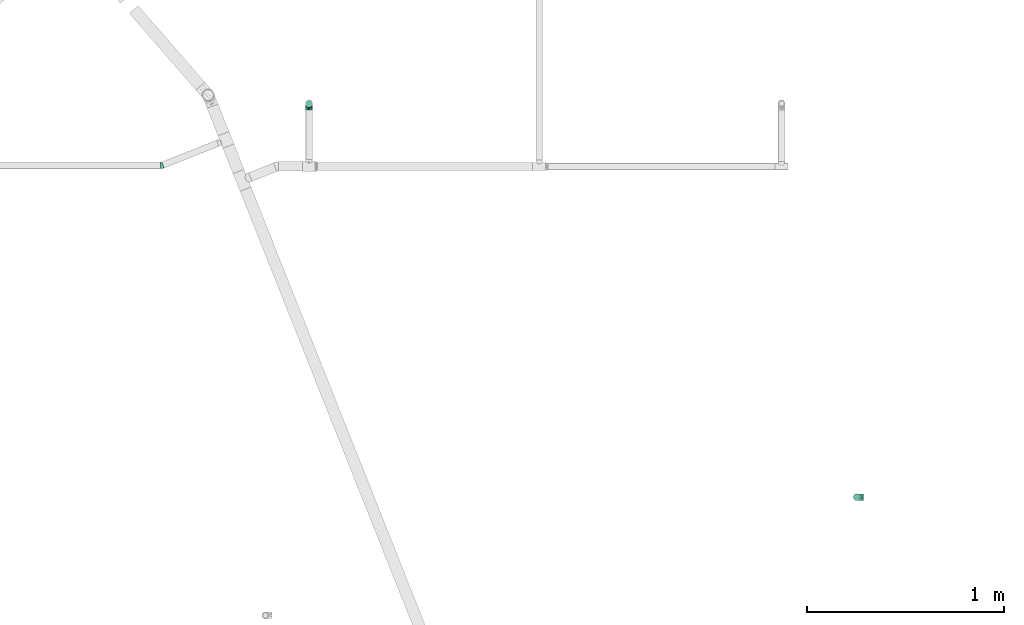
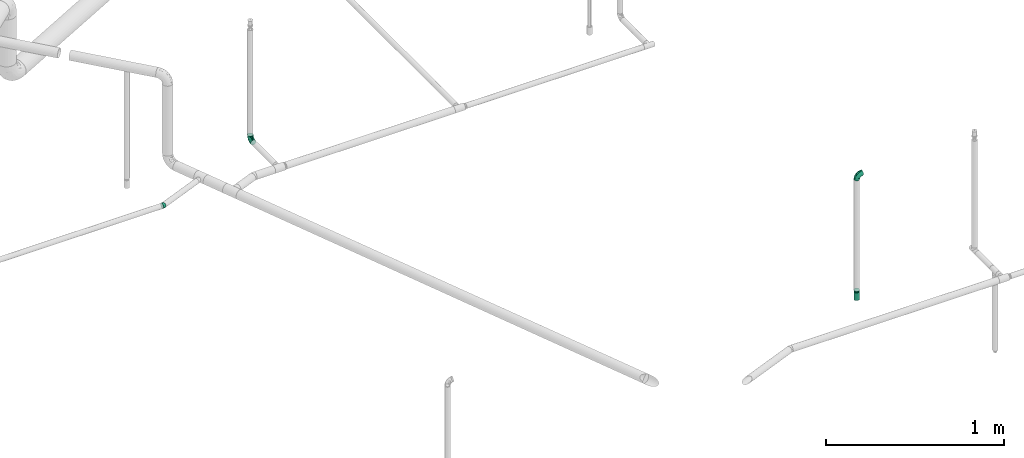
# One storey, part 42 of 94: 4 flow fittings, 1 flow terminal.
"""IFC2X3 building model written with IfcOpenShell, lengths in millimetres."""

from ifc_helpers import new_model, entity, si_unit, converted_unit, derived_unit, direction, frame, origin_with_axes, place, context, subcontext, project, spatial, open_shell, surface_model, source, transform, mapped, type_object, element, save


model = new_model("IFC2X3")

# Units and contexts
model_context = context("Model", 3, precision=0.01, world=frame((0.0, 4.29681676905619e-09, 0.0)), true_north=direction((4.01073788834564e-13, 1.0)))
plan_context = context("Plan", 3, precision=0.01, world=frame((0.0, 4.29681676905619e-09, 0.0)), true_north=direction((4.01073788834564e-13, 1.0)))
body_context = subcontext(model_context, "Body", "Model", "MODEL_VIEW")
ifc_project = project(units=[converted_unit("PLANEANGLEUNIT", "DEGREE", entity("IfcPositiveLengthMeasure", 0.0174532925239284), si_unit("PLANEANGLEUNIT", "RADIAN"), dimensions=[0, 0, 0, 0, 0, 0, 0]), si_unit("AREAUNIT", "SQUARE_METRE"), si_unit("LENGTHUNIT", "METRE", prefix="MILLI"), si_unit("MASSUNIT", "GRAM", prefix="KILO"), si_unit("POWERUNIT", "WATT"), si_unit("PRESSUREUNIT", "PASCAL", prefix="KILO"), si_unit("FORCEUNIT", "NEWTON", prefix="KILO"), si_unit("ELECTRICVOLTAGEUNIT", "VOLT"), si_unit("ELECTRICCURRENTUNIT", "AMPERE"), si_unit("THERMODYNAMICTEMPERATUREUNIT", "DEGREE_CELSIUS"), si_unit("TIMEUNIT", "SECOND"), si_unit("VOLUMEUNIT", "CUBIC_METRE"), derived_unit("LINEARVELOCITYUNIT", [(si_unit("LENGTHUNIT", "METRE"), 1), (si_unit("TIMEUNIT", "SECOND"), -1)]), derived_unit("VOLUMETRICFLOWRATEUNIT", [(si_unit("VOLUMEUNIT", "CUBIC_METRE"), 1), (si_unit("TIMEUNIT", "SECOND"), -1)]), derived_unit("THERMALTRANSMITTANCEUNIT", [(si_unit("POWERUNIT", "WATT"), 1), (si_unit("THERMODYNAMICTEMPERATUREUNIT", "KELVIN"), -1), (si_unit("AREAUNIT", "SQUARE_METRE"), -1)]), derived_unit("SOUNDPRESSUREUNIT", [(si_unit("PRESSUREUNIT", "PASCAL"), 1)])], contexts=[model_context, plan_context])

# Site, building, storey
site_placement = place(None, frame((0.0, -4.29681676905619e-09, 0.0), z_axis=(0.0, 0.0, 1.0), x_axis=(1.0, 0.0, 0.0)))
site = spatial("IfcSite", under=ifc_project, at=site_placement, CompositionType="ELEMENT")
building_placement = place(site_placement, frame((0.0, 4.29681676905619e-09, 0.0), z_axis=(0.0, 0.0, 1.0), x_axis=(1.0, 0.0, 0.0)))
building = spatial("IfcBuilding", under=site, at=building_placement, Name="mc-building", CompositionType="ELEMENT")
storey_placement = place(building_placement, frame((0.0, 0.0, 210900.0), z_axis=(0.0, 0.0, 1.0), x_axis=(1.0, 0.0, 0.0)))
storey = spatial("IfcBuildingStorey", under=building, at=storey_placement, Name="Nivå F", CompositionType="ELEMENT", Elevation=210900.0)

# Flow fittings
pipe_fitting_type_1 = type_object("IfcPipeFittingType", Name="magi_pipe_fe_elbow_short_001", PredefinedType="BEND")
shared_shape_1 = source(origin_with_axes(), body_context, "Body", "SurfaceModel", [
    surface_model("IfcShellBasedSurfaceModel", [(-33.8, 8.45, -14.63583), (-33.8, 4.37404, -16.32415), (-33.8, 11.9501, -11.9501), (-33.8, -11.9501, -11.9501), (-33.8, -14.63583, -8.45), (-33.8, -8.45, -14.63583), (-33.8, 0.0, -16.9), (-33.8, -4.37404, -16.32415), (-33.8, -4.37404, 16.32415), (-33.8, 0.0, 16.9), (-33.8, -8.45, 14.63583), (-33.8, 16.32415, -4.37404), (-33.8, 14.63583, -8.45), (-33.8, -16.32415, -4.37404), (-33.8, -16.9, 0.0), (-33.8, -16.32415, 4.37404), (-33.8, 11.9501, 11.9501), (-33.8, 14.63583, 8.45), (-33.8, 16.32415, 4.37404), (-33.8, 4.37404, 16.32415), (-33.8, 8.45, 14.63583), (-33.8, -14.63583, 8.45), (-33.8, -11.9501, 11.9501), (-33.8, 16.9, 0.0), (-11.9501, 33.8, -11.9501), (0.0, 33.8, -16.9), (-4.37404, 33.8, -16.32415), (-8.45, 33.8, -14.63583), (-14.63583, 33.8, -8.45), (-16.32415, 33.8, -4.37404), (14.63583, 33.8, -8.45), (8.45, 33.8, 14.63583), (16.32415, 33.8, -4.37404), (8.45, 33.8, -14.63583), (11.9501, 33.8, -11.9501), (4.37404, 33.8, -16.32415), (16.32415, 33.8, 4.37404), (16.9, 33.8, 0.0), (-11.9501, 33.8, 11.9501), (-16.32415, 33.8, 4.37404), (-14.63583, 33.8, 8.45), (-8.45, 33.8, 14.63583), (-4.37404, 33.8, 16.32415), (11.9501, 33.8, 11.9501), (14.63583, 33.8, 8.45), (0.0, 33.8, 16.9), (4.37404, 33.8, 16.32415), (-16.9, 33.8, 0.0), (-24.79389, -13.12945, 9.48721), (-22.19287, -9.75018, 12.59315), (-24.09897, -14.97035, 0.0), (-14.93934, -10.76256, 8.5297), (-22.46095, -14.75051, 5.27077), (14.75051, 22.46094, 5.27077), (11.9251, 13.23888, 4.33236), (13.04069, 14.39795, 0.0), (7.71387, 13.68847, 11.55891), (9.75018, 22.19287, 12.59315), (4.10169, 13.0571, 14.04018), (-24.84007, -6.39063, 15.2048), (-25.81779, -2.23879, 16.61097), (-23.66549, 2.59054, 16.87119), (-26.50418, 14.06512, 11.08152), (-24.21253, 17.66365, 7.72657), (-29.58514, 15.86957, 7.00283), (-6.17382, -7.5455, 0.0), (-13.23888, -11.9251, 4.33236), (-14.39795, -13.04069, 0.0), (-17.81434, 18.87373, 11.97104), (-6.30846, 29.15138, 15.82987), (-2.31622, 25.28002, 16.85849), (-29.23923, 10.23435, 13.77053), (-1.45439, -2.85688, 7.61475), (-0.28326, 0.34872, 10.09509), (-5.74484, -4.04709, 10.4122), (-4.41137, 11.31918, 16.59407), (-8.39727, 3.10034, 15.7812), (-1.72649, 9.1306, 15.53089), (-17.39909, 24.75344, 7.64977), (-26.19233, 20.0512, 0.0), (-28.14518, 17.29657, 4.25857), (-26.05147, 6.6281, 15.96447), (-5.87354, 16.61944, 16.86968), (-12.51807, 12.51807, 16.48937), (-10.06312, 7.38516, 16.81295), (-3.01882, 3.01882, 13.81718), (-13.0571, -4.10169, 14.04018), (-16.82553, -0.15166, 16.38038), (10.76256, 14.93934, 8.5297), (13.12945, 24.79389, 9.48721), (6.39063, 24.84007, 15.2048), (2.23879, 25.81779, 16.61097), (-13.68847, -7.71387, 11.55891), (14.97035, 24.09897, 0.0), (-7.30894, 22.89991, 16.09489), (-10.67958, 26.17414, 14.008), (-12.78295, 18.26924, 15.06066), (-13.88562, 22.45231, 12.93244), (-18.04944, 15.16501, 14.04434), (-23.11658, 20.08178, 4.02986), (-21.84989, 21.84989, 0.0), (-18.55817, 25.48277, 3.93065), (-13.95142, 26.94732, 11.03289), (-18.57098, 7.23906, 16.59756), (-16.58335, 4.14122, 16.89279), (-17.96666, 11.46709, 15.63151), (-9.84453, 17.54304, 16.18938), (0.15166, 16.82553, 16.38038), (-23.27207, 11.47201, 14.23154), (3.84842, 5.86994, 10.70473), (-8.0212, -7.54413, 7.93275), (1.00345, -2.19508, 4.57414), (5.13203, 3.01004, 5.90201), (5.24161, 1.7543, 2.53265), (8.70457, 7.04947, 3.99182), (-20.0512, 26.19233, 0.0), (8.4852, 8.76699, 7.09296), (-4.55488, -6.72064, 4.90681), (2.05031, -2.05031, 0.0), (7.5455, 6.17382, 0.0), (-26.75399, 2.1369, -16.845), (-14.61995, 24.73803, -11.27736), (-28.45274, -13.45335, -9.81895), (-26.00469, 6.63555, -15.96645), (-23.06726, 20.04573, -4.26202), (-13.80647, -4.26506, -14.17873), (-14.67501, -0.21081, -16.07388), (-6.7902, -0.2828, -13.8478), (-24.53586, 11.08096, -14.13417), (-26.72048, 14.00837, -11.05776), (10.0967, 24.44989, -12.75976), (5.83237, 21.40218, -15.03047), (6.66249, 28.54238, -15.38093), (-20.38182, 15.48705, -12.74596), (12.53268, 21.23441, -9.15363), (12.54494, 15.67504, -5.54878), (9.7522, 12.89279, -8.66343), (-15.65186, 19.64213, -13.01327), (-12.03528, 20.66498, -14.67665), (-15.61907, 15.61906, -14.83879), (-25.56551, -15.26206, 0.0), (-24.65452, -15.12934, -5.50955), (13.45335, 28.45274, -9.81895), (15.12934, 24.65452, -5.50955), (-7.35442, -8.31014, -5.65563), (-15.67504, -12.54494, -5.54878), (-24.44989, -10.0967, -12.75976), (0.16522, 0.41303, -9.71728), (-5.70658, -5.33066, -8.89288), (-5.13869, -2.37198, -11.53565), (-21.23441, -12.53268, -9.15363), (0.71146, 7.93863, -14.09382), (0.21081, 14.67501, -16.07388), (3.49291, 14.42772, -14.76381), (-24.89911, -2.13088, -16.591), (-28.54238, -6.66249, -15.38093), (-18.44386, -7.71663, -13.26957), (2.13088, 24.89911, -16.591), (-28.64342, 17.44413, -2.89318), (1.70017, -1.28722, -5.09504), (-16.57067, 26.81947, -7.36596), (-17.69055, 27.4263, -3.76405), (-12.89279, -9.7522, -8.66343), (-5.96611, 5.96611, -15.95814), (-20.53709, 20.09345, -8.28985), (-2.1369, 26.75399, -16.845), (-6.89872, 24.58781, -16.02578), (-10.60739, 26.53157, -13.98044), (-21.40218, -5.83237, -15.03047), (2.93192, 5.89627, -11.55917), (6.89393, 12.61842, -11.82233), (5.58056, 5.95325, -8.79455), (-3.99512, 18.61798, -16.89635), (8.31014, 7.35442, -5.65563), (-9.1383, 9.86148, -16.89041), (-9.99983, 16.02119, -16.39699), (-16.68576, 9.78031, -16.34199), (-27.01915, 16.61158, -7.12979), (15.26206, 25.56551, 0.0), (-18.61798, 3.99512, -16.89635), (-19.37495, 27.82495, 0.0), (-12.61842, -6.89393, -11.82233), (-18.84705, 19.14018, -10.96545)], [open_shell([[[0, 1, 2]], [[3, 4, 5]], [[6, 7, 5]], [[8, 9, 10]], [[1, 6, 2]], [[11, 12, 2]], [[4, 2, 6]], [[2, 13, 10]], [[5, 4, 6]], [[2, 4, 13]], [[14, 15, 13]], [[11, 2, 16]], [[11, 17, 18]], [[11, 16, 17]], [[19, 20, 16]], [[16, 2, 10]], [[19, 16, 10]], [[21, 22, 15]], [[22, 13, 15]], [[22, 10, 13]], [[10, 9, 19]], [[11, 18, 23]], [[24, 25, 26]], [[24, 26, 27]], [[24, 28, 29]], [[25, 24, 30]], [[31, 32, 24]], [[33, 30, 34]], [[33, 35, 25]], [[25, 30, 33]], [[32, 30, 24]], [[32, 36, 37]], [[38, 24, 29]], [[39, 40, 29]], [[40, 38, 29]], [[38, 41, 42]], [[38, 31, 24]], [[31, 38, 42]], [[36, 43, 44]], [[36, 32, 43]], [[31, 45, 46]], [[32, 31, 43]], [[42, 45, 31]], [[39, 29, 47]], [[22, 48, 49]], [[15, 14, 50]], [[51, 48, 52]], [[53, 54, 55]], [[48, 22, 21]], [[15, 52, 21]], [[56, 57, 58]], [[49, 10, 22]], [[49, 59, 10]], [[9, 60, 61]], [[62, 63, 64]], [[65, 66, 67]], [[57, 43, 31]], [[62, 68, 63]], [[42, 69, 70]], [[20, 71, 16]], [[8, 60, 9]], [[72, 73, 74]], [[75, 76, 77]], [[16, 62, 17]], [[40, 39, 78]], [[79, 23, 80]], [[64, 18, 17]], [[9, 61, 19]], [[19, 81, 20]], [[82, 83, 84]], [[74, 85, 86]], [[59, 86, 87]], [[88, 89, 57]], [[90, 31, 46]], [[44, 53, 36]], [[46, 45, 91]], [[54, 53, 88]], [[44, 89, 53]], [[92, 86, 49]], [[89, 44, 43]], [[10, 59, 8]], [[53, 55, 93]], [[93, 36, 53]], [[66, 52, 67]], [[94, 82, 70]], [[95, 96, 94]], [[97, 98, 96]], [[79, 99, 100]], [[41, 38, 95]], [[101, 100, 99]], [[68, 78, 63]], [[42, 41, 69]], [[23, 18, 80]], [[95, 94, 69]], [[78, 101, 99]], [[38, 102, 95]], [[70, 45, 42]], [[97, 95, 102]], [[15, 50, 52]], [[90, 57, 31]], [[57, 90, 58]], [[81, 19, 61]], [[103, 104, 84]], [[105, 81, 103]], [[38, 40, 102]], [[106, 96, 83]], [[94, 106, 82]], [[91, 70, 107]], [[71, 62, 16]], [[62, 108, 98]], [[86, 59, 49]], [[67, 52, 50]], [[60, 59, 87]], [[92, 49, 51]], [[86, 85, 76]], [[91, 90, 46]], [[37, 36, 93]], [[107, 77, 58]], [[107, 58, 90]], [[58, 85, 109]], [[110, 74, 92]], [[72, 74, 110]], [[66, 51, 52]], [[72, 111, 112]], [[113, 114, 112]], [[56, 88, 57]], [[52, 48, 21]], [[49, 48, 51]], [[57, 89, 43]], [[53, 89, 88]], [[103, 81, 61]], [[71, 81, 108]], [[18, 64, 80]], [[63, 78, 99]], [[47, 115, 101]], [[101, 115, 100]], [[40, 78, 102]], [[68, 102, 78]], [[97, 96, 95]], [[105, 98, 108]], [[103, 84, 83]], [[107, 70, 82]], [[76, 84, 87]], [[82, 84, 75]], [[70, 91, 45]], [[90, 91, 107]], [[59, 60, 8]], [[61, 60, 87]], [[73, 85, 74]], [[109, 112, 116]], [[103, 61, 104]], [[105, 103, 83]], [[96, 105, 83]], [[81, 105, 108]], [[96, 98, 105]], [[62, 98, 68]], [[61, 87, 104]], [[87, 84, 104]], [[86, 76, 87]], [[77, 76, 85]], [[58, 77, 85]], [[75, 77, 107]], [[82, 75, 107]], [[76, 75, 84]], [[81, 71, 20]], [[62, 71, 108]], [[95, 69, 41]], [[70, 69, 94]], [[62, 64, 17]], [[80, 63, 99]], [[63, 80, 64]], [[80, 99, 79]], [[66, 65, 117]], [[110, 66, 117]], [[112, 114, 116]], [[118, 117, 65]], [[110, 92, 51]], [[112, 111, 113]], [[119, 55, 54]], [[74, 86, 92]], [[58, 109, 56]], [[116, 56, 109]], [[66, 110, 51]], [[72, 110, 117]], [[111, 72, 117]], [[73, 112, 109]], [[117, 118, 111]], [[113, 111, 118]], [[118, 119, 113]], [[114, 119, 54]], [[119, 114, 113]], [[116, 54, 88]], [[54, 116, 114]], [[116, 88, 56]], [[112, 73, 72]], [[85, 73, 109]], [[78, 39, 101]], [[47, 101, 39]], [[102, 68, 97]], [[97, 68, 98]], [[82, 106, 83]], [[94, 96, 106]], [[1, 120, 6]], [[28, 24, 121]], [[3, 122, 4]], [[0, 123, 1]], [[100, 124, 79]], [[125, 126, 127]], [[128, 2, 129]], [[130, 131, 132]], [[128, 129, 133]], [[134, 135, 136]], [[137, 138, 139]], [[128, 0, 2]], [[67, 140, 141]], [[134, 142, 143]], [[141, 13, 4]], [[144, 65, 145]], [[146, 3, 5]], [[147, 148, 149]], [[145, 141, 150]], [[151, 152, 153]], [[154, 7, 6]], [[5, 155, 146]], [[150, 146, 156]], [[155, 5, 7]], [[143, 135, 134]], [[35, 157, 25]], [[23, 79, 158]], [[148, 159, 144]], [[160, 161, 29]], [[145, 162, 144]], [[163, 152, 151]], [[29, 28, 160]], [[121, 164, 160]], [[33, 34, 130]], [[25, 165, 26]], [[26, 165, 166]], [[142, 34, 30]], [[24, 27, 167]], [[124, 161, 164]], [[157, 35, 132]], [[155, 154, 168]], [[123, 0, 128]], [[169, 170, 171]], [[172, 157, 152]], [[26, 166, 27]], [[132, 35, 33]], [[142, 130, 34]], [[168, 154, 126]], [[136, 135, 173]], [[133, 137, 139]], [[2, 12, 129]], [[170, 131, 130]], [[30, 32, 143]], [[172, 174, 175]], [[176, 123, 128]], [[158, 177, 11]], [[135, 55, 119]], [[167, 27, 166]], [[175, 166, 172]], [[137, 167, 138]], [[122, 141, 4]], [[140, 14, 13]], [[32, 37, 178]], [[170, 130, 134]], [[152, 157, 131]], [[165, 157, 172]], [[153, 170, 151]], [[152, 163, 174]], [[168, 125, 156]], [[122, 146, 150]], [[120, 154, 6]], [[179, 174, 126]], [[179, 126, 154]], [[126, 163, 127]], [[162, 145, 150]], [[140, 13, 141]], [[32, 178, 143]], [[55, 143, 178]], [[177, 129, 12]], [[128, 133, 139]], [[176, 128, 139]], [[120, 123, 179]], [[121, 160, 28]], [[161, 100, 180]], [[166, 175, 138]], [[121, 24, 167]], [[161, 47, 29]], [[79, 124, 158]], [[124, 164, 177]], [[161, 124, 100]], [[136, 171, 170]], [[127, 163, 151]], [[147, 171, 159]], [[148, 144, 162]], [[127, 151, 169]], [[127, 181, 125]], [[129, 177, 164]], [[12, 11, 177]], [[159, 65, 144]], [[67, 141, 145]], [[143, 55, 135]], [[135, 119, 173]], [[123, 120, 1]], [[154, 120, 179]], [[157, 165, 25]], [[166, 165, 172]], [[172, 152, 174]], [[176, 139, 175]], [[126, 174, 163]], [[176, 174, 179]], [[174, 176, 175]], [[123, 176, 179]], [[150, 181, 162]], [[127, 149, 181]], [[181, 148, 162]], [[159, 148, 147]], [[171, 136, 173]], [[170, 134, 136]], [[159, 171, 173]], [[171, 147, 169]], [[169, 147, 149]], [[151, 170, 169]], [[164, 182, 129]], [[182, 121, 137]], [[181, 149, 148]], [[169, 149, 127]], [[182, 137, 133]], [[167, 137, 121]], [[166, 138, 167]], [[175, 139, 138]], [[129, 182, 133]], [[121, 182, 164]], [[161, 160, 164]], [[47, 161, 180]], [[177, 158, 124]], [[23, 158, 11]], [[130, 132, 33]], [[157, 132, 131]], [[143, 142, 30]], [[130, 142, 134]], [[154, 155, 7]], [[146, 155, 168]], [[146, 122, 3]], [[141, 122, 150]], [[152, 131, 153]], [[159, 119, 118]], [[67, 145, 65]], [[170, 153, 131]], [[119, 159, 173]], [[159, 118, 65]], [[156, 125, 181]], [[126, 125, 168]], [[150, 156, 181]], [[168, 156, 146]]])]),
])
for number, where, z_axis, x_axis, name in (
    (1, (719221.4788, 441198.08755, 3600.0), (1.0, 0.0, 0.0), (0.0, 1.0, 0.0), "magi_pipe_fe_elbow_short_001"),
    (2, (722000.0, 439200.7, 3600.0), (0.0, 1.0, 0.0), (0.0, 0.0, 1.0), "magi_pipe_fe_elbow_short_001"),
):
    element("IfcFlowFitting", number, at=place(storey_placement, frame(where, z_axis=z_axis, x_axis=x_axis)), inside=storey, type_object=pipe_fitting_type_1, Name=name, context=body_context, shape_type="MappedRepresentation", body=[
        mapped(shared_shape_1, transform((0.0, 0.0, 0.0), scale=1.0)),
    ])
shared_shape_2 = source(origin_with_axes(), body_context, "Body", "SurfaceModel", [
    surface_model("IfcShellBasedSurfaceModel", [(-6.47272, 4.37404, -16.32415), (-6.47272, 0.0, -16.9), (-6.47272, 11.9501, -11.9501), (-6.47272, 8.45, -14.63583), (-6.47272, 16.32415, -4.37404), (-6.47272, 14.63583, -8.45), (-6.47272, -14.63583, -8.45), (-6.47272, -16.32415, -4.37404), (-6.47272, -8.45, 14.63583), (-6.47272, -11.9501, -11.9501), (-6.47272, -8.45, -14.63583), (-6.47272, -4.37404, -16.32415), (-6.47272, -16.9, 0.0), (-6.47272, -16.32415, 4.37404), (-6.47272, 11.9501, 11.9501), (-6.47272, 16.32415, 4.37404), (-6.47272, 14.63583, 8.45), (-6.47272, 4.37404, 16.32415), (-6.47272, 8.45, 14.63583), (-6.47272, -14.63583, 8.45), (-6.47272, -11.9501, 11.9501), (-6.47272, -4.37404, 16.32415), (-6.47272, 0.0, 16.9), (-6.47272, 16.9, 0.0), (4.39877, 6.45594, -16.32415), (12.04577, -12.77785, -4.37404), (6.01477, 2.39136, -16.9), (1.59978, 13.49599, -11.9501), (2.8929, 10.24352, -14.63583), (0.60753, 15.9917, -8.45), (-0.01622, 17.56057, -4.37404), (1.59978, 13.49599, 11.9501), (9.13664, -5.4608, -14.63583), (11.42201, -11.20898, -8.45), (10.42977, -8.71327, -11.9501), (7.63077, -1.67322, -16.32415), (12.04577, -12.77785, 4.37404), (12.25852, -13.31296, 0.0), (-0.22897, 18.09568, 0.0), (-0.01622, 17.56057, 4.37404), (0.60753, 15.9917, 8.45), (2.8929, 10.24352, 14.63583), (4.39877, 6.45594, 16.32415), (9.13664, -5.4608, 14.63583), (6.01477, 2.39136, 16.9), (10.42977, -8.71327, 11.9501), (11.42201, -11.20898, 8.45), (7.63077, -1.67322, 16.32415), (1.85403, -9.6816, 13.26474), (1.79785, -12.81896, 10.10403), (2.83982, -14.82933, 6.22192), (1.13843, -5.94477, 15.52937), (0.33675, -1.75849, 16.72805), (-0.49597, 2.58991, 16.77851), (-3.29412, 17.20161, 0.0), (0.32149, -16.14055, 3.16707), (3.06308, -15.99517, 0.0), (0.33675, -1.75849, -16.72805), (1.13843, -5.94477, -15.52937), (3.06534, -12.57623, -10.10403), (2.83982, -14.82933, -6.22192), (-0.49597, 2.58991, -16.77851), (1.85403, -9.6816, -13.26474), (5.66442, -15.11737, -3.16707)], [open_shell([[[0, 1, 2]], [[3, 0, 2]], [[4, 5, 2]], [[6, 2, 1]], [[2, 7, 8]], [[9, 6, 10]], [[1, 11, 10]], [[1, 10, 6]], [[6, 7, 2]], [[12, 13, 7]], [[4, 2, 14]], [[14, 15, 4]], [[16, 15, 14]], [[17, 18, 14]], [[2, 8, 14]], [[17, 14, 8]], [[19, 20, 13]], [[13, 20, 7]], [[21, 22, 8]], [[20, 8, 7]], [[8, 22, 17]], [[23, 4, 15]], [[24, 25, 26]], [[27, 24, 28]], [[27, 29, 30]], [[25, 24, 27]], [[31, 25, 27]], [[32, 33, 34]], [[32, 35, 26]], [[32, 25, 33]], [[26, 25, 32]], [[25, 36, 37]], [[38, 27, 30]], [[38, 39, 40]], [[38, 40, 31]], [[31, 41, 42]], [[43, 25, 31]], [[44, 31, 42]], [[36, 45, 46]], [[36, 25, 45]], [[43, 44, 47]], [[25, 43, 45]], [[31, 44, 43]], [[31, 27, 38]], [[48, 20, 49]], [[8, 20, 48]], [[20, 19, 49]], [[36, 46, 50]], [[19, 50, 49]], [[21, 8, 51]], [[48, 51, 8]], [[22, 21, 52]], [[22, 53, 17]], [[46, 49, 50]], [[50, 19, 13]], [[45, 43, 48]], [[16, 14, 40]], [[18, 31, 14]], [[47, 44, 52]], [[51, 52, 21]], [[44, 42, 53]], [[54, 15, 39]], [[55, 50, 13]], [[54, 23, 15]], [[39, 15, 16]], [[12, 55, 13]], [[41, 18, 17]], [[52, 53, 22]], [[12, 56, 55]], [[43, 47, 51]], [[52, 51, 47]], [[43, 51, 48]], [[53, 52, 44]], [[45, 48, 49]], [[45, 49, 46]], [[56, 37, 36]], [[40, 39, 16]], [[38, 54, 39]], [[41, 17, 42]], [[18, 41, 31]], [[40, 14, 31]], [[17, 53, 42]], [[36, 50, 55]], [[36, 55, 56]], [[1, 57, 11]], [[58, 57, 35]], [[6, 59, 60]], [[1, 0, 61]], [[27, 2, 5]], [[62, 58, 32]], [[2, 27, 3]], [[63, 60, 25]], [[4, 30, 5]], [[34, 33, 59]], [[57, 61, 26]], [[3, 24, 0]], [[56, 12, 7]], [[7, 60, 63]], [[62, 9, 10]], [[7, 63, 56]], [[7, 6, 60]], [[6, 9, 59]], [[58, 10, 11]], [[4, 23, 54]], [[54, 38, 30]], [[58, 11, 57]], [[30, 29, 5]], [[27, 5, 29]], [[9, 62, 59]], [[3, 28, 24]], [[62, 10, 58]], [[33, 60, 59]], [[3, 27, 28]], [[57, 1, 61]], [[26, 61, 24]], [[58, 35, 32]], [[24, 61, 0]], [[37, 63, 25]], [[62, 32, 34]], [[33, 25, 60]], [[37, 56, 63]], [[34, 59, 62]], [[35, 57, 26]], [[4, 54, 30]]])]),
])
flow_fitting_1_placement = place(storey_placement, frame((718474.70896, 440883.45685, 3600.0), z_axis=(0.0, 0.0, 1.0), x_axis=(1.0, 0.0, 0.0)))
element("IfcFlowFitting", 3, at=flow_fitting_1_placement, inside=storey, type_object=pipe_fitting_type_1, Name="magi_pipe_fe_elbow_short_001", context=body_context, shape_type="MappedRepresentation", body=[
    mapped(shared_shape_2, transform((0.0, 0.0, 0.0), scale=1.0)),
])
pipe_fitting_type_2 = type_object("IfcPipeFittingType", Name="magi_pipe_fe_reducer_centric_short_NOR", PredefinedType="TRANSITION")
shared_shape_3 = source(origin_with_axes(), body_context, "Body", "SurfaceModel", [
    surface_model("IfcShellBasedSurfaceModel", [(-2.0, -7.56604, -7.56604), (-2.0, -10.33541, -2.76936), (-2.0, -5.35, -9.26647), (-2.0, 5.35, -9.26647), (-2.0, 10.33541, -2.76936), (-2.0, 7.56604, -7.56604), (12.4, 11.9501, 11.9501), (12.4, 0.0, 16.9), (12.4, 11.9501, -11.9501), (12.4, 16.9, 0.0), (0.0, -10.7, 0.0), (0.0, -5.35, 9.26647), (0.0, -5.35, -9.26647), (0.0, 10.7, 0.0), (12.4, 15.66253, -2.98753), (12.4, 8.96258, -13.18758), (0.0, 6.6875, -6.94985), (12.4, -15.66253, -2.98753), (12.4, -16.9, 0.0), (12.4, 5.97505, -14.42505), (0.0, 5.35, -9.26647), (12.4, 14.42505, -5.97505), (0.0, 8.025, -4.63324), (0.0, 9.3625, -2.31662), (0.0, -9.3625, -2.31662), (0.0, -8.025, -4.63324), (12.4, -14.42505, -5.97505), (12.4, 13.18758, -8.96258), (12.4, -13.18758, -8.96258), (12.4, -11.9501, -11.9501), (0.0, -6.6875, -6.94985), (12.4, -8.96258, -13.18758), (12.4, -5.97505, -14.42505), (12.4, -15.66253, 2.98753), (12.4, -8.96258, 13.18758), (0.0, -6.6875, 6.94985), (12.4, -11.9501, 11.9501), (12.4, 15.66253, 2.98753), (12.4, -5.97505, 14.42505), (12.4, -14.42505, 5.97505), (0.0, -8.025, 4.63324), (0.0, -9.3625, 2.31662), (0.0, 9.3625, 2.31662), (0.0, 8.025, 4.63324), (12.4, 14.42505, 5.97505), (12.4, -13.18758, 8.96258), (12.4, 13.18758, 8.96258), (0.0, 6.6875, 6.94985), (12.4, 8.96258, 13.18758), (0.0, 5.35, 9.26647), (12.4, 5.97505, 14.42505), (14.4, 4.37404, -16.32415), (14.4, 8.45, -14.63583), (14.4, 11.9501, -11.9501), (14.4, -8.45, -14.63583), (14.4, 16.32415, -4.37404), (14.4, 16.32415, 4.37404), (14.4, 14.63583, -8.45), (14.4, 0.0, -16.9), (14.4, -4.37404, -16.32415), (14.4, -11.9501, -11.9501), (14.4, -16.32415, -4.37404), (14.4, -14.63583, -8.45), (14.4, -16.32415, 4.37404), (14.4, 16.9, 0.0), (14.4, 14.63583, 8.45), (14.4, 11.9501, 11.9501), (14.4, 4.37404, 16.32415), (14.4, 8.45, 14.63583), (14.4, 0.0, 16.9), (14.4, -14.63583, 8.45), (14.4, -16.9, 0.0), (14.4, -8.45, 14.63583), (14.4, -11.9501, 11.9501), (14.4, -4.37404, 16.32415), (12.4, 4.37404, 16.32415), (12.4, -14.63583, 8.45), (12.4, 16.32415, 4.37404), (12.4, 8.45, 14.63583), (12.4, 14.63583, 8.45), (12.4, -8.45, 14.63583), (12.4, -4.37404, 16.32415), (12.4, -16.32415, 4.37404), (12.4, -16.32415, -4.37404), (12.4, -8.45, -14.63583), (12.4, 16.32415, -4.37404), (12.4, 14.63583, -8.45), (12.4, 8.45, -14.63583), (12.4, 4.37404, -16.32415), (12.4, 0.0, -16.9), (12.4, -14.63583, -8.45), (12.4, -4.37404, -16.32415), (-2.0, 2.76936, 10.33541), (-2.0, 0.0, 10.7), (-2.0, 5.35, 9.26647), (-2.0, 7.56604, 7.56604), (-2.0, 9.26647, 5.35), (-2.0, 10.33541, 2.76936), (-2.0, -10.33541, 2.76936), (-2.0, -2.76936, 10.33541), (-2.0, -7.56604, 7.56604), (-2.0, -5.35, 9.26647), (-2.0, -9.26647, 5.35), (-2.0, -10.7, 0.0), (-2.0, 9.26647, -5.35), (-2.0, 2.76936, -10.33541), (-2.0, -9.26647, -5.35), (-2.0, 0.0, -10.7), (-2.0, -2.76936, -10.33541), (-2.0, 10.7, 0.0), (0.0, 0.0, -10.7), (0.0, 2.76936, -10.33541), (0.0, 10.33541, -2.76936), (0.0, 7.56604, -7.56604), (0.0, -10.33541, -2.76936), (0.0, 9.26647, -5.35), (0.0, 0.0, 10.7), (0.0, -2.76936, -10.33541), (0.0, -7.56604, -7.56604), (0.0, -9.26647, -5.35), (0.0, 10.33541, 2.76936), (0.0, 9.26647, 5.35), (0.0, 7.56604, 7.56604), (0.0, 2.76936, 10.33541), (0.0, -7.56604, 7.56604), (0.0, -10.33541, 2.76936), (0.0, -9.26647, 5.35), (0.0, -2.76936, 10.33541), (0.0, 2.675, -9.26647), (0.0, -2.675, -9.26647), (12.4, 2.98753, -15.66253), (0.0, 0.0, -9.26647), (12.4, -2.98753, -15.66253), (0.0, -2.675, 9.26647), (0.0, 2.675, 9.26647), (12.4, -2.98753, 15.66253), (0.0, 0.0, 9.26647), (12.4, 2.98753, 15.66253)], [open_shell([[[0, 1, 2]], [[3, 4, 5]], [[6, 7, 8]], [[8, 9, 6]], [[10, 11, 12]], [[13, 9, 14]], [[15, 16, 8]], [[17, 18, 10]], [[15, 19, 20]], [[21, 22, 23]], [[24, 25, 26]], [[22, 21, 27]], [[28, 26, 25]], [[29, 30, 31]], [[12, 32, 31]], [[10, 18, 33]], [[34, 35, 36]], [[37, 9, 13]], [[34, 38, 11]], [[39, 40, 41]], [[42, 43, 44]], [[40, 39, 45]], [[46, 44, 43]], [[6, 47, 48]], [[49, 50, 48]], [[51, 52, 53]], [[54, 51, 53]], [[53, 55, 56]], [[55, 53, 57]], [[53, 56, 54]], [[58, 54, 59]], [[58, 51, 54]], [[60, 61, 62]], [[61, 60, 54]], [[54, 63, 61]], [[56, 55, 64]], [[56, 65, 66]], [[56, 66, 67]], [[67, 63, 54]], [[67, 66, 68]], [[63, 67, 69]], [[69, 70, 63]], [[71, 61, 63]], [[70, 72, 73]], [[70, 69, 72]], [[72, 69, 74]], [[54, 56, 67]], [[75, 76, 7]], [[77, 75, 78]], [[6, 79, 77]], [[6, 77, 78]], [[76, 75, 77]], [[80, 76, 36]], [[80, 81, 7]], [[7, 76, 80]], [[82, 76, 77]], [[82, 83, 18]], [[82, 77, 84]], [[77, 85, 8]], [[8, 85, 86]], [[8, 87, 88]], [[84, 77, 8]], [[88, 89, 8]], [[83, 29, 90]], [[29, 83, 84]], [[84, 89, 91]], [[83, 82, 84]], [[8, 89, 84]], [[85, 77, 9]], [[83, 61, 18]], [[90, 62, 83]], [[54, 29, 84]], [[90, 29, 60]], [[59, 84, 91]], [[83, 62, 61]], [[61, 71, 18]], [[59, 54, 84]], [[60, 29, 54]], [[60, 62, 90]], [[58, 59, 91]], [[91, 89, 58]], [[88, 51, 89]], [[87, 52, 88]], [[57, 8, 86]], [[87, 8, 53]], [[55, 86, 85]], [[87, 53, 52]], [[52, 51, 88]], [[64, 55, 85]], [[57, 86, 55]], [[57, 53, 8]], [[9, 64, 85]], [[89, 51, 58]], [[77, 56, 9]], [[79, 65, 77]], [[68, 6, 78]], [[79, 6, 66]], [[67, 78, 75]], [[77, 65, 56]], [[56, 64, 9]], [[67, 68, 78]], [[66, 6, 68]], [[66, 65, 79]], [[69, 67, 75]], [[75, 7, 69]], [[81, 74, 7]], [[80, 72, 81]], [[70, 36, 76]], [[80, 36, 73]], [[63, 76, 82]], [[80, 73, 72]], [[72, 74, 81]], [[71, 63, 82]], [[70, 76, 63]], [[70, 73, 36]], [[18, 71, 82]], [[7, 74, 69]], [[92, 1, 93]], [[94, 1, 92]], [[95, 96, 97]], [[95, 97, 94]], [[98, 93, 1]], [[99, 100, 101]], [[99, 93, 100]], [[100, 98, 102]], [[93, 98, 100]], [[98, 1, 103]], [[94, 97, 1]], [[1, 97, 4]], [[5, 4, 104]], [[4, 3, 1]], [[105, 1, 3]], [[1, 0, 106]], [[2, 107, 108]], [[2, 1, 105]], [[105, 107, 2]], [[4, 97, 109]], [[20, 110, 111]], [[112, 20, 113]], [[114, 20, 112]], [[112, 113, 115]], [[116, 114, 112]], [[110, 12, 117]], [[110, 20, 12]], [[118, 114, 119]], [[114, 118, 12]], [[20, 114, 12]], [[112, 13, 120]], [[120, 121, 122]], [[120, 122, 123]], [[116, 112, 123]], [[123, 122, 49]], [[116, 124, 114]], [[125, 124, 126]], [[10, 114, 125]], [[124, 127, 11]], [[125, 114, 124]], [[127, 124, 116]], [[123, 112, 120]], [[1, 114, 103]], [[106, 119, 1]], [[12, 0, 2]], [[106, 0, 118]], [[117, 2, 108]], [[1, 119, 114]], [[114, 10, 103]], [[117, 12, 2]], [[118, 0, 12]], [[118, 119, 106]], [[110, 117, 108]], [[108, 107, 110]], [[105, 111, 107]], [[3, 20, 105]], [[115, 5, 104]], [[3, 5, 113]], [[112, 104, 4]], [[3, 113, 20]], [[20, 111, 105]], [[13, 112, 4]], [[115, 104, 112]], [[115, 113, 5]], [[109, 13, 4]], [[107, 111, 110]], [[97, 120, 109]], [[96, 121, 97]], [[49, 95, 94]], [[96, 95, 122]], [[123, 94, 92]], [[97, 121, 120]], [[120, 13, 109]], [[123, 49, 94]], [[122, 95, 49]], [[122, 121, 96]], [[116, 123, 92]], [[92, 93, 116]], [[99, 127, 93]], [[101, 11, 99]], [[126, 100, 102]], [[101, 100, 124]], [[125, 102, 98]], [[101, 124, 11]], [[11, 127, 99]], [[10, 125, 98]], [[126, 102, 125]], [[126, 124, 100]], [[103, 10, 98]], [[93, 127, 116]], [[18, 7, 36]], [[18, 29, 8]], [[89, 8, 29]], [[18, 8, 7]], [[13, 11, 49]], [[13, 20, 12]], [[13, 12, 11]], [[24, 26, 17]], [[10, 24, 17]], [[16, 15, 20]], [[30, 12, 31]], [[23, 14, 21]], [[19, 128, 20]], [[27, 8, 16]], [[32, 12, 129]], [[30, 28, 25]], [[130, 131, 128]], [[129, 132, 32]], [[16, 22, 27]], [[13, 14, 23]], [[128, 19, 130]], [[130, 89, 131]], [[131, 132, 129]], [[89, 132, 131]], [[28, 30, 29]], [[42, 44, 37]], [[13, 42, 37]], [[35, 34, 11]], [[47, 49, 48]], [[41, 33, 39]], [[38, 133, 11]], [[45, 36, 35]], [[50, 49, 134]], [[47, 46, 43]], [[135, 136, 133]], [[134, 137, 50]], [[35, 40, 45]], [[10, 33, 41]], [[133, 38, 135]], [[135, 7, 136]], [[136, 137, 134]], [[7, 137, 136]], [[46, 47, 6]]])]),
])
flow_fitting_2_placement = place(storey_placement, frame((722000.0, 439200.7, 2794.49074000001), z_axis=(0.0, 1.0, 0.0), x_axis=(0.0, 0.0, 1.0)))
element("IfcFlowFitting", 4, at=flow_fitting_2_placement, inside=storey, type_object=pipe_fitting_type_2, Name="magi_pipe_fe_reducer_centric_short_NOR", context=body_context, shape_type="MappedRepresentation", body=[
    mapped(shared_shape_3, transform((0.0, 0.0, 0.0), scale=1.0)),
])

# Flow terminal
fire_suppression_terminal_type = type_object("IfcFireSuppressionTerminalType", Name="SP-15-K80-68DGR-STD-HIMLING", PredefinedType="NOTDEFINED")
shared_shape_4 = source(origin_with_axes(), body_context, "Body", "SurfaceModel", [
    surface_model("IfcShellBasedSurfaceModel", [(4.1411, -15.45481, 53.0), (8.0, -13.85641, 53.0), (11.31371, -11.31371, 53.0), (-8.0, -13.85641, 53.0), (15.45481, -4.1411, 53.0), (16.0, 0.0, 53.0), (13.85641, -8.0, 53.0), (0.0, -16.0, 53.0), (-4.1411, -15.45481, 53.0), (-13.85641, -8.0, 53.0), (-11.31371, -11.31371, 53.0), (-15.45481, -4.1411, 53.0), (15.45481, 4.1411, 53.0), (13.85641, 8.0, 53.0), (11.31371, 11.31371, 53.0), (-4.1411, 15.45481, 53.0), (8.0, 13.85641, 53.0), (4.1411, 15.45481, 53.0), (0.0, 16.0, 53.0), (-13.85641, 8.0, 53.0), (-15.45481, 4.1411, 53.0), (-16.0, 0.0, 53.0), (-11.31371, 11.31371, 53.0), (-8.0, 13.85641, 53.0), (0.0, 16.0, 0.0), (4.1411, 15.45481, 0.0), (8.0, 13.85641, 0.0), (-4.1411, 15.45481, 0.0), (11.31371, 11.31371, 0.0), (13.85641, 8.0, 0.0), (15.45481, 4.1411, 0.0), (-15.45481, -4.1411, 0.0), (-11.31371, 11.31371, 0.0), (-8.0, 13.85641, 0.0), (-13.85641, 8.0, 0.0), (-15.45481, 4.1411, 0.0), (-16.0, 0.0, 0.0), (4.1411, -15.45481, 0.0), (16.0, 0.0, 0.0), (15.45481, -4.1411, 0.0), (13.85641, -8.0, 0.0), (11.31371, -11.31371, 0.0), (8.0, -13.85641, 0.0), (-8.0, -13.85641, 0.0), (-13.85641, -8.0, 0.0), (-11.31371, -11.31371, 0.0), (0.0, -16.0, 0.0), (-4.1411, -15.45481, 0.0)], [open_shell([[[0, 1, 2]], [[3, 0, 2]], [[4, 5, 2]], [[4, 2, 6]], [[3, 2, 5]], [[7, 3, 8]], [[7, 0, 3]], [[3, 9, 10]], [[9, 3, 11]], [[5, 11, 3]], [[5, 12, 11]], [[12, 13, 14]], [[15, 12, 14]], [[16, 17, 18]], [[14, 16, 15]], [[18, 15, 16]], [[11, 19, 20]], [[21, 11, 20]], [[22, 15, 23]], [[15, 22, 19]], [[19, 11, 15]], [[11, 12, 15]], [[24, 25, 26]], [[27, 24, 26]], [[28, 29, 30]], [[27, 26, 28]], [[27, 28, 31]], [[27, 32, 33]], [[32, 27, 34]], [[34, 31, 35]], [[31, 34, 27]], [[35, 31, 36]], [[28, 30, 31]], [[37, 38, 39]], [[37, 39, 40]], [[41, 42, 37]], [[41, 37, 40]], [[38, 37, 43]], [[44, 43, 45]], [[43, 44, 31]], [[43, 46, 47]], [[43, 31, 38]], [[37, 46, 43]], [[38, 31, 30]], [[11, 31, 44]], [[45, 9, 44]], [[3, 43, 47]], [[45, 43, 10]], [[8, 47, 46]], [[31, 21, 36]], [[31, 11, 21]], [[44, 9, 11]], [[45, 10, 9]], [[3, 10, 43]], [[47, 8, 3]], [[46, 7, 8]], [[0, 37, 42]], [[41, 1, 42]], [[6, 40, 39]], [[41, 40, 2]], [[4, 39, 38]], [[37, 0, 7]], [[42, 1, 0]], [[41, 2, 1]], [[40, 6, 2]], [[4, 6, 39]], [[38, 5, 4]], [[37, 7, 46]], [[12, 38, 30]], [[13, 30, 29]], [[16, 26, 25]], [[17, 25, 24]], [[30, 13, 12]], [[12, 5, 38]], [[28, 14, 13]], [[28, 26, 14]], [[14, 26, 16]], [[25, 17, 16]], [[28, 13, 29]], [[24, 18, 17]], [[15, 27, 33]], [[32, 23, 33]], [[19, 34, 35]], [[32, 34, 22]], [[20, 35, 36]], [[27, 15, 18]], [[33, 23, 15]], [[32, 22, 23]], [[34, 19, 22]], [[20, 19, 35]], [[36, 21, 20]], [[27, 18, 24]]])]),
])
flow_terminal_placement = place(storey_placement, frame((722000.0, 439200.7, 2797.53873999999), z_axis=(0.0, 0.0, -1.0), x_axis=(-1.0, 0.0, 0.0)))
element("IfcFlowTerminal", 5, at=flow_terminal_placement, inside=storey, type_object=fire_suppression_terminal_type, Name="SP-15-K80-68DGR-STD-HIMLING", context=body_context, shape_type="MappedRepresentation", body=[
    mapped(shared_shape_4, transform((0.0, 0.0, 0.0), scale=1.0)),
])

save(model, "model.ifc")
